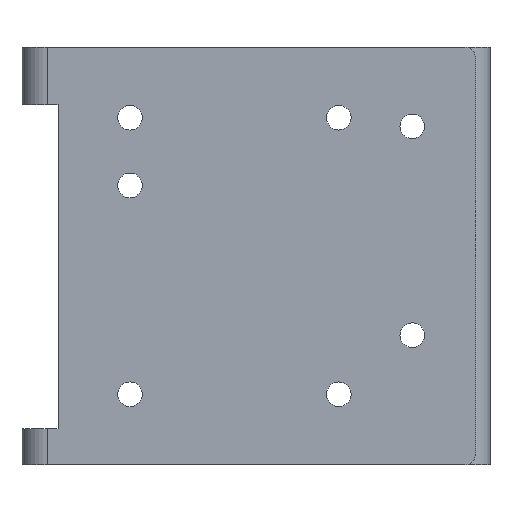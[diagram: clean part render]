
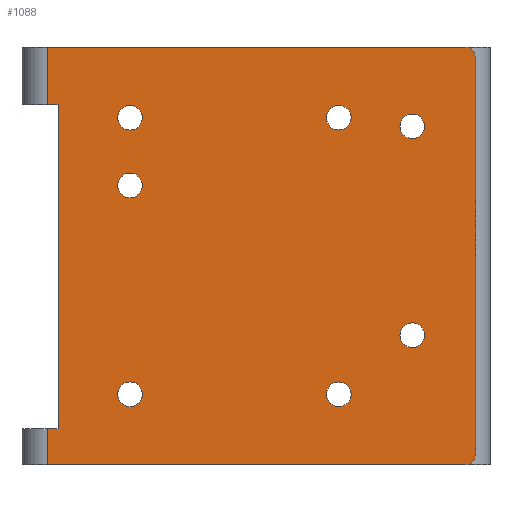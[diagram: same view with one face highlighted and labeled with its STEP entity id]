
A CAD part, left-side view. The second image highlights one B-rep face of the part: STEP entity #1088.
In plain terms, the highlighted planar face has unit normal (-1, 0, 0).
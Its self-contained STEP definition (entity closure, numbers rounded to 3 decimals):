
#22=PLANE('',#1200);
#60=LINE('',#1720,#140);
#73=LINE('',#1756,#153);
#85=LINE('',#1788,#165);
#86=LINE('',#1791,#166);
#87=LINE('',#1793,#167);
#88=LINE('',#1795,#168);
#89=LINE('',#1797,#169);
#90=LINE('',#1801,#170);
#140=VECTOR('',#1402,58.);
#153=VECTOR('',#1431,1.5);
#165=VECTOR('',#1459,1.5);
#166=VECTOR('',#1464,8.);
#167=VECTOR('',#1467,45.);
#168=VECTOR('',#1468,5.);
#169=VECTOR('',#1469,58.);
#170=VECTOR('',#1472,55.);
#222=FACE_BOUND('',#355,.T.);
#223=FACE_BOUND('',#356,.T.);
#224=FACE_BOUND('',#357,.T.);
#225=FACE_BOUND('',#358,.T.);
#226=FACE_BOUND('',#359,.T.);
#227=FACE_BOUND('',#360,.T.);
#228=FACE_BOUND('',#361,.T.);
#272=FACE_OUTER_BOUND('',#354,.T.);
#354=EDGE_LOOP('',(#868,#869,#870,#871,#872,#873,#874,#875,#876,#877));
#355=EDGE_LOOP('',(#878));
#356=EDGE_LOOP('',(#879));
#357=EDGE_LOOP('',(#880));
#358=EDGE_LOOP('',(#881));
#359=EDGE_LOOP('',(#882));
#360=EDGE_LOOP('',(#883));
#361=EDGE_LOOP('',(#884));
#395=CIRCLE('',#1114,1.711);
#397=CIRCLE('',#1117,1.711);
#399=CIRCLE('',#1120,1.711);
#401=CIRCLE('',#1123,1.711);
#403=CIRCLE('',#1126,1.711);
#405=CIRCLE('',#1129,1.711);
#407=CIRCLE('',#1132,1.711);
#450=CIRCLE('',#1201,1.5);
#451=CIRCLE('',#1202,1.5);
#463=VERTEX_POINT('',#1564);
#465=VERTEX_POINT('',#1569);
#467=VERTEX_POINT('',#1574);
#469=VERTEX_POINT('',#1579);
#471=VERTEX_POINT('',#1584);
#473=VERTEX_POINT('',#1589);
#475=VERTEX_POINT('',#1594);
#523=VERTEX_POINT('',#1717);
#524=VERTEX_POINT('',#1719);
#538=VERTEX_POINT('',#1753);
#539=VERTEX_POINT('',#1755);
#550=VERTEX_POINT('',#1785);
#551=VERTEX_POINT('',#1787);
#552=VERTEX_POINT('',#1794);
#553=VERTEX_POINT('',#1796);
#554=VERTEX_POINT('',#1798);
#555=VERTEX_POINT('',#1800);
#571=EDGE_CURVE('',#463,#463,#395,.T.);
#573=EDGE_CURVE('',#465,#465,#397,.T.);
#575=EDGE_CURVE('',#467,#467,#399,.T.);
#577=EDGE_CURVE('',#469,#469,#401,.T.);
#579=EDGE_CURVE('',#471,#471,#403,.T.);
#581=EDGE_CURVE('',#473,#473,#405,.T.);
#583=EDGE_CURVE('',#475,#475,#407,.T.);
#641=EDGE_CURVE('',#524,#523,#60,.T.);
#659=EDGE_CURVE('',#539,#538,#73,.T.);
#676=EDGE_CURVE('',#551,#550,#85,.T.);
#678=EDGE_CURVE('',#551,#523,#86,.T.);
#679=EDGE_CURVE('',#550,#539,#87,.T.);
#680=EDGE_CURVE('',#552,#538,#88,.T.);
#681=EDGE_CURVE('',#552,#553,#89,.T.);
#682=EDGE_CURVE('',#554,#553,#450,.T.);
#683=EDGE_CURVE('',#555,#554,#90,.T.);
#684=EDGE_CURVE('',#524,#555,#451,.T.);
#868=ORIENTED_EDGE('',*,*,#678,.F.);
#869=ORIENTED_EDGE('',*,*,#676,.T.);
#870=ORIENTED_EDGE('',*,*,#679,.T.);
#871=ORIENTED_EDGE('',*,*,#659,.T.);
#872=ORIENTED_EDGE('',*,*,#680,.F.);
#873=ORIENTED_EDGE('',*,*,#681,.T.);
#874=ORIENTED_EDGE('',*,*,#682,.F.);
#875=ORIENTED_EDGE('',*,*,#683,.F.);
#876=ORIENTED_EDGE('',*,*,#684,.F.);
#877=ORIENTED_EDGE('',*,*,#641,.T.);
#878=ORIENTED_EDGE('',*,*,#571,.T.);
#879=ORIENTED_EDGE('',*,*,#573,.T.);
#880=ORIENTED_EDGE('',*,*,#575,.T.);
#881=ORIENTED_EDGE('',*,*,#577,.T.);
#882=ORIENTED_EDGE('',*,*,#579,.T.);
#883=ORIENTED_EDGE('',*,*,#581,.T.);
#884=ORIENTED_EDGE('',*,*,#583,.T.);
#1088=ADVANCED_FACE('',(#272,#222,#223,#224,#225,#226,#227,#228),#22,.T.);
#1114=AXIS2_PLACEMENT_3D('',#1565,#1240,#1241);
#1117=AXIS2_PLACEMENT_3D('',#1570,#1246,#1247);
#1120=AXIS2_PLACEMENT_3D('',#1575,#1252,#1253);
#1123=AXIS2_PLACEMENT_3D('',#1580,#1258,#1259);
#1126=AXIS2_PLACEMENT_3D('',#1585,#1264,#1265);
#1129=AXIS2_PLACEMENT_3D('',#1590,#1270,#1271);
#1132=AXIS2_PLACEMENT_3D('',#1595,#1276,#1277);
#1200=AXIS2_PLACEMENT_3D('',#1792,#1465,#1466);
#1201=AXIS2_PLACEMENT_3D('',#1799,#1470,#1471);
#1202=AXIS2_PLACEMENT_3D('',#1802,#1473,#1474);
#1240=DIRECTION('center_axis',(1.,0.,0.));
#1241=DIRECTION('ref_axis',(0.,0.,1.));
#1246=DIRECTION('center_axis',(1.,0.,0.));
#1247=DIRECTION('ref_axis',(0.,0.,1.));
#1252=DIRECTION('center_axis',(1.,0.,0.));
#1253=DIRECTION('ref_axis',(0.,0.,1.));
#1258=DIRECTION('center_axis',(1.,0.,0.));
#1259=DIRECTION('ref_axis',(0.,0.,1.));
#1264=DIRECTION('center_axis',(1.,0.,0.));
#1265=DIRECTION('ref_axis',(0.,0.,1.));
#1270=DIRECTION('center_axis',(1.,0.,0.));
#1271=DIRECTION('ref_axis',(0.,0.,1.));
#1276=DIRECTION('center_axis',(1.,0.,0.));
#1277=DIRECTION('ref_axis',(0.,0.,1.));
#1402=DIRECTION('',(0.,1.,0.));
#1431=DIRECTION('',(0.,1.,0.));
#1459=DIRECTION('',(0.,-1.,0.));
#1464=DIRECTION('',(0.,0.,1.));
#1465=DIRECTION('center_axis',(-1.,0.,0.));
#1466=DIRECTION('ref_axis',(0.,0.,1.));
#1467=DIRECTION('',(0.,0.,-1.));
#1468=DIRECTION('',(0.,0.,1.));
#1469=DIRECTION('',(0.,-1.,0.));
#1470=DIRECTION('center_axis',(1.,0.,0.));
#1471=DIRECTION('ref_axis',(0.,-0.707,-0.707));
#1472=DIRECTION('',(0.,0.,-1.));
#1473=DIRECTION('center_axis',(1.,0.,0.));
#1474=DIRECTION('ref_axis',(0.,-0.707,0.707));
#1564=CARTESIAN_POINT('',(-19.125,-11.5,-17.489));
#1565=CARTESIAN_POINT('Origin',(-19.125,-11.5,-19.2));
#1569=CARTESIAN_POINT('',(-19.125,-21.7,-9.289));
#1570=CARTESIAN_POINT('Origin',(-19.125,-21.7,-11.));
#1574=CARTESIAN_POINT('',(-19.125,-21.7,19.711));
#1575=CARTESIAN_POINT('Origin',(-19.125,-21.7,18.));
#1579=CARTESIAN_POINT('',(-19.125,-11.5,20.911));
#1580=CARTESIAN_POINT('Origin',(-19.125,-11.5,19.2));
#1584=CARTESIAN_POINT('',(-19.125,17.5,-17.489));
#1585=CARTESIAN_POINT('Origin',(-19.125,17.5,-19.2));
#1589=CARTESIAN_POINT('',(-19.125,17.5,11.511));
#1590=CARTESIAN_POINT('Origin',(-19.125,17.5,9.8));
#1594=CARTESIAN_POINT('',(-19.125,17.5,20.911));
#1595=CARTESIAN_POINT('Origin',(-19.125,17.5,19.2));
#1717=CARTESIAN_POINT('',(-19.125,29.,29.));
#1719=CARTESIAN_POINT('',(-19.125,-29.,29.));
#1720=CARTESIAN_POINT('',(-19.125,-30.5,29.));
#1753=CARTESIAN_POINT('',(-19.125,29.,-24.));
#1755=CARTESIAN_POINT('',(-19.125,27.5,-24.));
#1756=CARTESIAN_POINT('',(-19.125,32.5,-24.));
#1785=CARTESIAN_POINT('',(-19.125,27.5,21.));
#1787=CARTESIAN_POINT('',(-19.125,29.,21.));
#1788=CARTESIAN_POINT('',(-19.125,30.,21.));
#1791=CARTESIAN_POINT('',(-19.125,29.,29.));
#1792=CARTESIAN_POINT('Origin',(-19.125,32.5,29.));
#1793=CARTESIAN_POINT('',(-19.125,27.5,2.5));
#1794=CARTESIAN_POINT('',(-19.125,29.,-29.));
#1795=CARTESIAN_POINT('',(-19.125,29.,29.));
#1796=CARTESIAN_POINT('',(-19.125,-29.,-29.));
#1797=CARTESIAN_POINT('',(-19.125,-30.5,-29.));
#1798=CARTESIAN_POINT('',(-19.125,-30.5,-27.5));
#1799=CARTESIAN_POINT('Origin',(-19.125,-29.,-27.5));
#1800=CARTESIAN_POINT('',(-19.125,-30.5,27.5));
#1801=CARTESIAN_POINT('',(-19.125,-30.5,29.));
#1802=CARTESIAN_POINT('Origin',(-19.125,-29.,27.5));
